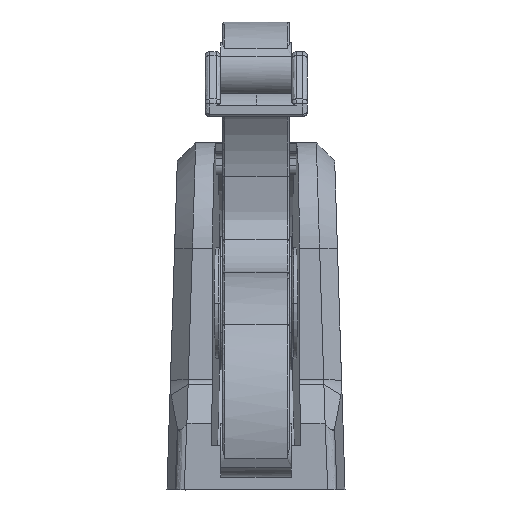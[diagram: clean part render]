
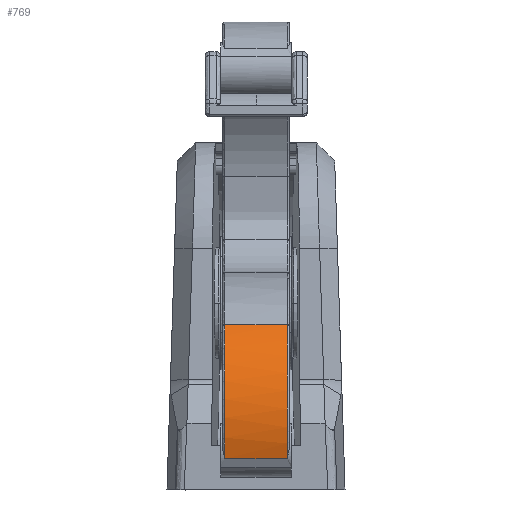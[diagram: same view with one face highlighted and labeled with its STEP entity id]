
A CAD part, left-side view. The second image highlights one B-rep face of the part: STEP entity #769.
In plain terms, the highlighted free-form (B-spline) face has degree [2, 1] with [3, 2] control points.
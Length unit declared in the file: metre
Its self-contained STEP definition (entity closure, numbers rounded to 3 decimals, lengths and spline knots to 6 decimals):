
#769 = ADVANCED_FACE( '', ( #1962 ), #1963, .F. );
#1962 = FACE_OUTER_BOUND( '', #4766, .T. );
#1963 = ( BOUNDED_SURFACE(  )B_SPLINE_SURFACE( 2, 1, ( ( #4769, #4770 ), ( #4771, #4772 ), ( #4773, #4774 ) ), .UNSPECIFIED., .F., .F., .F. )B_SPLINE_SURFACE_WITH_KNOTS( ( 3, 3 ), ( 2, 2 ), ( 0., 1. ), ( 0.026667, 0.973333 ), .UNSPECIFIED. )GEOMETRIC_REPRESENTATION_ITEM(  )RATIONAL_B_SPLINE_SURFACE( ( ( 1., 1. ), ( 0.829, 0.829 ), ( 1., 1. ) ) )REPRESENTATION_ITEM( '' )SURFACE(  ) );
#4766 = EDGE_LOOP( '', ( #16671, #16672, #16673, #16674 ) );
#4769 = CARTESIAN_POINT( '', ( -0.042842, -0.0071, 0.037168 ) );
#4770 = CARTESIAN_POINT( '', ( -0.042842, 0.0071, 0.037168 ) );
#4771 = CARTESIAN_POINT( '', ( -0.057269, -0.0071, 0.02497 ) );
#4772 = CARTESIAN_POINT( '', ( -0.057269, 0.0071, 0.02497 ) );
#4773 = CARTESIAN_POINT( '', ( -0.051358, -0.0071, 0.007026 ) );
#4774 = CARTESIAN_POINT( '', ( -0.051358, 0.0071, 0.007026 ) );
#16671 = ORIENTED_EDGE( '', *, *, #19645, .T. );
#16672 = ORIENTED_EDGE( '', *, *, #19392, .F. );
#16673 = ORIENTED_EDGE( '', *, *, #19646, .F. );
#16674 = ORIENTED_EDGE( '', *, *, #19647, .F. );
#19392 = EDGE_CURVE( '', #21221, #21223, #21224, .T. );
#19645 = EDGE_CURVE( '', #21658, #21223, #21659, .F. );
#19646 = EDGE_CURVE( '', #21660, #21221, #21661, .T. );
#19647 = EDGE_CURVE( '', #21658, #21660, #21662, .F. );
#21221 = VERTEX_POINT( '', #24556 );
#21223 = VERTEX_POINT( '', #24570 );
#21224 = ( BOUNDED_CURVE(  )B_SPLINE_CURVE( 1, ( #24573, #24574 ), .UNSPECIFIED., .F., .F. )B_SPLINE_CURVE_WITH_KNOTS( ( 2, 2 ), ( 0.033333, 0.966667 ), .UNSPECIFIED. )CURVE(  )GEOMETRIC_REPRESENTATION_ITEM(  )RATIONAL_B_SPLINE_CURVE( ( 0.89, 0.89 ) )REPRESENTATION_ITEM( '' ) );
#21658 = VERTEX_POINT( '', #27438 );
#21659 = ( BOUNDED_CURVE(  )B_SPLINE_CURVE( 2, ( #27441, #27442, #27443 ), .UNSPECIFIED., .F., .F. )B_SPLINE_CURVE_WITH_KNOTS( ( 3, 3 ), ( 0., 1. ), .UNSPECIFIED. )CURVE(  )GEOMETRIC_REPRESENTATION_ITEM(  )RATIONAL_B_SPLINE_CURVE( ( 1., 0.829, 1. ) )REPRESENTATION_ITEM( '' ) );
#21660 = VERTEX_POINT( '', #27449 );
#21661 = ( BOUNDED_CURVE(  )B_SPLINE_CURVE( 2, ( #27452, #27453, #27454 ), .UNSPECIFIED., .F., .F. )B_SPLINE_CURVE_WITH_KNOTS( ( 3, 3 ), ( 0., 1. ), .UNSPECIFIED. )CURVE(  )GEOMETRIC_REPRESENTATION_ITEM(  )RATIONAL_B_SPLINE_CURVE( ( 1., 0.829, 1. ) )REPRESENTATION_ITEM( '' ) );
#21662 = B_SPLINE_CURVE_WITH_KNOTS( '', 1, ( #27460, #27461 ), .UNSPECIFIED., .F., .F., ( 2, 2 ), ( 0.033333, 0.966667 ), .UNSPECIFIED. );
#24556 = CARTESIAN_POINT( '', ( -0.051358, -0.007, 0.007026 ) );
#24570 = CARTESIAN_POINT( '', ( -0.051358, 0.007, 0.007026 ) );
#24573 = CARTESIAN_POINT( '', ( -0.051358, -0.007, 0.007026 ) );
#24574 = CARTESIAN_POINT( '', ( -0.051358, 0.007, 0.007026 ) );
#27438 = CARTESIAN_POINT( '', ( -0.042842, 0.007, 0.037168 ) );
#27441 = CARTESIAN_POINT( '', ( -0.051358, 0.007, 0.007026 ) );
#27442 = CARTESIAN_POINT( '', ( -0.057269, 0.007, 0.02497 ) );
#27443 = CARTESIAN_POINT( '', ( -0.042842, 0.007, 0.037168 ) );
#27449 = CARTESIAN_POINT( '', ( -0.042842, -0.007, 0.037168 ) );
#27452 = CARTESIAN_POINT( '', ( -0.042842, -0.007, 0.037168 ) );
#27453 = CARTESIAN_POINT( '', ( -0.057269, -0.007, 0.02497 ) );
#27454 = CARTESIAN_POINT( '', ( -0.051358, -0.007, 0.007026 ) );
#27460 = CARTESIAN_POINT( '', ( -0.042842, -0.007, 0.037168 ) );
#27461 = CARTESIAN_POINT( '', ( -0.042842, 0.007, 0.037168 ) );
